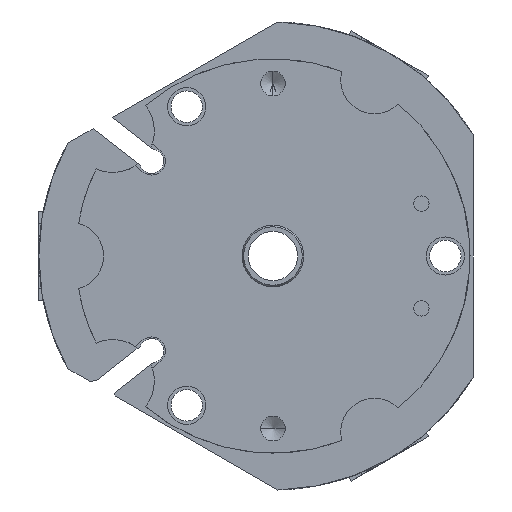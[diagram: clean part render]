
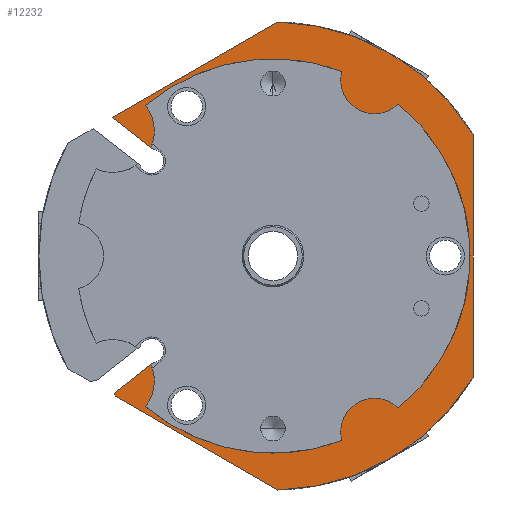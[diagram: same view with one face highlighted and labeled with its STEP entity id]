
A CAD part, front view. The second image highlights one B-rep face of the part: STEP entity #12232.
In plain terms, the highlighted planar face has unit normal (0, -1, 0).
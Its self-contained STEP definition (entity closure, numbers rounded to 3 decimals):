
#63 = CARTESIAN_POINT ( 'NONE',  ( 0., -21., 0. ) ) ;
#121 = VERTEX_POINT ( 'NONE', #1441 ) ;
#237 = AXIS2_PLACEMENT_3D ( 'NONE', #12495, #8853, #13555 ) ;
#511 = VERTEX_POINT ( 'NONE', #3491 ) ;
#514 = CARTESIAN_POINT ( 'NONE',  ( 32.5, -21., -19.691 ) ) ;
#529 = DIRECTION ( 'NONE',  ( 0., -1., 0. ) ) ;
#616 = CARTESIAN_POINT ( 'NONE',  ( 21.879, -21., 23.352 ) ) ;
#712 = VECTOR ( 'NONE', #7133, 1000. ) ;
#744 = CARTESIAN_POINT ( 'NONE',  ( -20.659, -21., 24.438 ) ) ;
#1271 = CARTESIAN_POINT ( 'NONE',  ( -26.034, -21., 22.497 ) ) ;
#1315 = VERTEX_POINT ( 'NONE', #6739 ) ;
#1406 = DIRECTION ( 'NONE',  ( 0., -1., 0. ) ) ;
#1415 = VERTEX_POINT ( 'NONE', #2182 ) ;
#1441 = CARTESIAN_POINT ( 'NONE',  ( 9.284, -21., 30.624 ) ) ;
#1454 = DIRECTION ( 'NONE',  ( 0., 0., -1. ) ) ;
#1510 = CARTESIAN_POINT ( 'NONE',  ( 0., -21., 0. ) ) ;
#1652 = CARTESIAN_POINT ( 'NONE',  ( -25.731, -21., -22.261 ) ) ;
#1709 = DIRECTION ( 'NONE',  ( 0., 0., -1. ) ) ;
#1791 = ORIENTED_EDGE ( 'NONE', *, *, #14112, .F. ) ;
#1823 = VERTEX_POINT ( 'NONE', #9978 ) ;
#1881 = EDGE_LOOP ( 'NONE', ( #6600, #9003, #1791, #10924, #3862, #9072, #7744, #14701, #12476, #2341, #2847, #10850, #6942, #15069, #12007, #2230, #10007 ) ) ;
#1961 = CARTESIAN_POINT ( 'NONE',  ( 32.5, -21., 19.691 ) ) ;
#2043 = CIRCLE ( 'NONE', #11885, 7.5 ) ;
#2050 = VERTEX_POINT ( 'NONE', #8268 ) ;
#2085 = CARTESIAN_POINT ( 'NONE',  ( 0., -21., 0. ) ) ;
#2164 = DIRECTION ( 'NONE',  ( 0., 0., -1. ) ) ;
#2182 = CARTESIAN_POINT ( 'NONE',  ( -20.659, -21., -24.438 ) ) ;
#2196 = CARTESIAN_POINT ( 'NONE',  ( 16.5, -21., 21.079 ) ) ;
#2230 = ORIENTED_EDGE ( 'NONE', *, *, #6860, .T. ) ;
#2273 = CIRCLE ( 'NONE', #8838, 6.75 ) ;
#2341 = ORIENTED_EDGE ( 'NONE', *, *, #11930, .T. ) ;
#2428 = DIRECTION ( 'NONE',  ( 0., 0., 1. ) ) ;
#2815 = CIRCLE ( 'NONE', #3130, 38. ) ;
#2847 = ORIENTED_EDGE ( 'NONE', *, *, #8185, .T. ) ;
#2876 = EDGE_CURVE ( 'NONE', #121, #10652, #2043, .T. ) ;
#3036 = EDGE_CURVE ( 'NONE', #1415, #14414, #12218, .T. ) ;
#3130 = AXIS2_PLACEMENT_3D ( 'NONE', #9474, #12848, #2428 ) ;
#3447 = PLANE ( 'NONE',  #9662 ) ;
#3491 = CARTESIAN_POINT ( 'NONE',  ( 21.879, -21., -23.352 ) ) ;
#3603 = DIRECTION ( 'NONE',  ( 0.788, 0., -0.616 ) ) ;
#3842 = DIRECTION ( 'NONE',  ( 0., 0., -1. ) ) ;
#3862 = ORIENTED_EDGE ( 'NONE', *, *, #13208, .T. ) ;
#3919 = AXIS2_PLACEMENT_3D ( 'NONE', #13856, #13803, #7988 ) ;
#4103 = EDGE_CURVE ( 'NONE', #6249, #10728, #5024, .T. ) ;
#4335 = AXIS2_PLACEMENT_3D ( 'NONE', #11246, #13682, #2164 ) ;
#4512 = EDGE_CURVE ( 'NONE', #10728, #12527, #2273, .T. ) ;
#4573 = CARTESIAN_POINT ( 'NONE',  ( 0.803, -21., 37.992 ) ) ;
#4599 = VERTEX_POINT ( 'NONE', #514 ) ;
#4711 = VECTOR ( 'NONE', #12190, 1000. ) ;
#4738 = CARTESIAN_POINT ( 'NONE',  ( -26.034, -21., 22.497 ) ) ;
#4819 = DIRECTION ( 'NONE',  ( 0., -1., 0. ) ) ;
#4825 = VECTOR ( 'NONE', #13332, 1000. ) ;
#5024 = LINE ( 'NONE', #1271, #10838 ) ;
#5631 = LINE ( 'NONE', #12636, #712 ) ;
#5693 = CARTESIAN_POINT ( 'NONE',  ( -19.81, -21., -17.635 ) ) ;
#5959 = DIRECTION ( 'NONE',  ( 0., -1., 0. ) ) ;
#6022 = CARTESIAN_POINT ( 'NONE',  ( 0., -21., 0. ) ) ;
#6249 = VERTEX_POINT ( 'NONE', #4738 ) ;
#6600 = ORIENTED_EDGE ( 'NONE', *, *, #4103, .T. ) ;
#6703 = LINE ( 'NONE', #9828, #4711 ) ;
#6739 = CARTESIAN_POINT ( 'NONE',  ( 0.803, -21., 37.992 ) ) ;
#6848 = DIRECTION ( 'NONE',  ( 0., -1., 0. ) ) ;
#6860 = EDGE_CURVE ( 'NONE', #7588, #1315, #11636, .T. ) ;
#6942 = ORIENTED_EDGE ( 'NONE', *, *, #9744, .T. ) ;
#7133 = DIRECTION ( 'NONE',  ( 0., 0., 1. ) ) ;
#7331 = AXIS2_PLACEMENT_3D ( 'NONE', #12922, #5959, #8371 ) ;
#7458 = FACE_OUTER_BOUND ( 'NONE', #1881, .T. ) ;
#7588 = VERTEX_POINT ( 'NONE', #1961 ) ;
#7744 = ORIENTED_EDGE ( 'NONE', *, *, #12565, .T. ) ;
#7903 = DIRECTION ( 'NONE',  ( -0.788, 0., -0.616 ) ) ;
#7987 = CIRCLE ( 'NONE', #237, 7.5 ) ;
#7988 = DIRECTION ( 'NONE',  ( 0., 0., 1. ) ) ;
#8030 = VERTEX_POINT ( 'NONE', #616 ) ;
#8185 = EDGE_CURVE ( 'NONE', #11371, #9533, #9040, .T. ) ;
#8235 = DIRECTION ( 'NONE',  ( 0., -1., 0. ) ) ;
#8268 = CARTESIAN_POINT ( 'NONE',  ( 9.284, -21., -30.624 ) ) ;
#8329 = CARTESIAN_POINT ( 'NONE',  ( -26.004, -21., 20.317 ) ) ;
#8371 = DIRECTION ( 'NONE',  ( 0., 0., -1. ) ) ;
#8490 = CARTESIAN_POINT ( 'NONE',  ( -25.601, -21., -22.747 ) ) ;
#8625 = LINE ( 'NONE', #8490, #4825 ) ;
#8838 = AXIS2_PLACEMENT_3D ( 'NONE', #8329, #13176, #10829 ) ;
#8853 = DIRECTION ( 'NONE',  ( 0., -1., 0. ) ) ;
#8898 = VECTOR ( 'NONE', #11488, 1000. ) ;
#9003 = ORIENTED_EDGE ( 'NONE', *, *, #4512, .T. ) ;
#9040 = LINE ( 'NONE', #5693, #11430 ) ;
#9072 = ORIENTED_EDGE ( 'NONE', *, *, #11335, .F. ) ;
#9168 = DIRECTION ( 'NONE',  ( 0., 0., -1. ) ) ;
#9269 = EDGE_CURVE ( 'NONE', #14414, #2050, #10107, .T. ) ;
#9302 = CIRCLE ( 'NONE', #11618, 32. ) ;
#9474 = CARTESIAN_POINT ( 'NONE',  ( 0., -21., 0. ) ) ;
#9533 = VERTEX_POINT ( 'NONE', #1652 ) ;
#9662 = AXIS2_PLACEMENT_3D ( 'NONE', #2085, #6848, #9168 ) ;
#9744 = EDGE_CURVE ( 'NONE', #1823, #13141, #8625, .T. ) ;
#9828 = CARTESIAN_POINT ( 'NONE',  ( -25.731, -21., -22.261 ) ) ;
#9978 = CARTESIAN_POINT ( 'NONE',  ( -25.601, -21., -22.747 ) ) ;
#10007 = ORIENTED_EDGE ( 'NONE', *, *, #12314, .T. ) ;
#10107 = CIRCLE ( 'NONE', #13003, 32. ) ;
#10525 = DIRECTION ( 'NONE',  ( 0., 0., -1. ) ) ;
#10652 = VERTEX_POINT ( 'NONE', #2196 ) ;
#10728 = VERTEX_POINT ( 'NONE', #13765 ) ;
#10738 = EDGE_CURVE ( 'NONE', #13141, #4599, #2815, .T. ) ;
#10829 = DIRECTION ( 'NONE',  ( 0., 0., -1. ) ) ;
#10838 = VECTOR ( 'NONE', #3603, 1000. ) ;
#10850 = ORIENTED_EDGE ( 'NONE', *, *, #13128, .F. ) ;
#10860 = DIRECTION ( 'NONE',  ( 0., 0., -1. ) ) ;
#10924 = ORIENTED_EDGE ( 'NONE', *, *, #2876, .T. ) ;
#11100 = CARTESIAN_POINT ( 'NONE',  ( 0.803, -21., -37.992 ) ) ;
#11162 = CARTESIAN_POINT ( 'NONE',  ( 0., -21., -32. ) ) ;
#11246 = CARTESIAN_POINT ( 'NONE',  ( 16.5, -21., 28.579 ) ) ;
#11335 = EDGE_CURVE ( 'NONE', #511, #8030, #9302, .T. ) ;
#11371 = VERTEX_POINT ( 'NONE', #12085 ) ;
#11430 = VECTOR ( 'NONE', #7903, 1000. ) ;
#11488 = DIRECTION ( 'NONE',  ( -0.866, 0., -0.5 ) ) ;
#11618 = AXIS2_PLACEMENT_3D ( 'NONE', #6022, #529, #1709 ) ;
#11636 = CIRCLE ( 'NONE', #3919, 38. ) ;
#11885 = AXIS2_PLACEMENT_3D ( 'NONE', #12940, #11924, #1454 ) ;
#11924 = DIRECTION ( 'NONE',  ( 0., -1., 0. ) ) ;
#11930 = EDGE_CURVE ( 'NONE', #1415, #11371, #14223, .T. ) ;
#12007 = ORIENTED_EDGE ( 'NONE', *, *, #12786, .T. ) ;
#12033 = LINE ( 'NONE', #4573, #8898 ) ;
#12085 = CARTESIAN_POINT ( 'NONE',  ( -19.81, -21., -17.635 ) ) ;
#12190 = DIRECTION ( 'NONE',  ( -0.259, 0., 0.966 ) ) ;
#12218 = CIRCLE ( 'NONE', #13434, 32. ) ;
#12232 = ADVANCED_FACE ( 'NONE', ( #7458 ), #3447, .T. ) ;
#12314 = EDGE_CURVE ( 'NONE', #1315, #6249, #12033, .T. ) ;
#12476 = ORIENTED_EDGE ( 'NONE', *, *, #3036, .F. ) ;
#12495 = CARTESIAN_POINT ( 'NONE',  ( 16.5, -21., -28.579 ) ) ;
#12527 = VERTEX_POINT ( 'NONE', #744 ) ;
#12539 = CIRCLE ( 'NONE', #13306, 32. ) ;
#12565 = EDGE_CURVE ( 'NONE', #511, #2050, #7987, .T. ) ;
#12636 = CARTESIAN_POINT ( 'NONE',  ( 32.5, -21., 0. ) ) ;
#12702 = CIRCLE ( 'NONE', #4335, 7.5 ) ;
#12786 = EDGE_CURVE ( 'NONE', #4599, #7588, #5631, .T. ) ;
#12848 = DIRECTION ( 'NONE',  ( 0., -1., 0. ) ) ;
#12922 = CARTESIAN_POINT ( 'NONE',  ( -26.004, -21., -20.317 ) ) ;
#12940 = CARTESIAN_POINT ( 'NONE',  ( 16.5, -21., 28.579 ) ) ;
#13002 = CARTESIAN_POINT ( 'NONE',  ( 0., -21., 0. ) ) ;
#13003 = AXIS2_PLACEMENT_3D ( 'NONE', #63, #8235, #10525 ) ;
#13128 = EDGE_CURVE ( 'NONE', #1823, #9533, #6703, .T. ) ;
#13141 = VERTEX_POINT ( 'NONE', #11100 ) ;
#13176 = DIRECTION ( 'NONE',  ( 0., -1., 0. ) ) ;
#13208 = EDGE_CURVE ( 'NONE', #10652, #8030, #12702, .T. ) ;
#13306 = AXIS2_PLACEMENT_3D ( 'NONE', #13002, #4819, #10860 ) ;
#13332 = DIRECTION ( 'NONE',  ( 0.866, 0., -0.5 ) ) ;
#13434 = AXIS2_PLACEMENT_3D ( 'NONE', #1510, #1406, #3842 ) ;
#13555 = DIRECTION ( 'NONE',  ( 0., 0., -1. ) ) ;
#13682 = DIRECTION ( 'NONE',  ( 0., -1., 0. ) ) ;
#13765 = CARTESIAN_POINT ( 'NONE',  ( -19.81, -21., 17.635 ) ) ;
#13803 = DIRECTION ( 'NONE',  ( 0., -1., 0. ) ) ;
#13856 = CARTESIAN_POINT ( 'NONE',  ( 0., -21., 0. ) ) ;
#14112 = EDGE_CURVE ( 'NONE', #121, #12527, #12539, .T. ) ;
#14223 = CIRCLE ( 'NONE', #7331, 6.75 ) ;
#14414 = VERTEX_POINT ( 'NONE', #11162 ) ;
#14701 = ORIENTED_EDGE ( 'NONE', *, *, #9269, .F. ) ;
#15069 = ORIENTED_EDGE ( 'NONE', *, *, #10738, .T. ) ;
